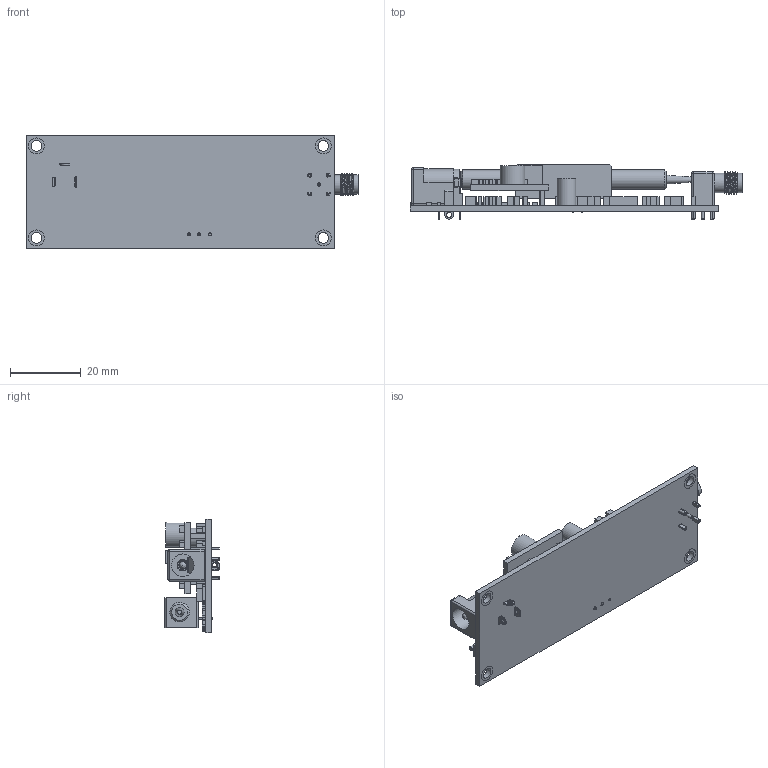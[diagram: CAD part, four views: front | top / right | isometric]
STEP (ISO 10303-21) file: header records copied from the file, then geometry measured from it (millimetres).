
FILE_DESCRIPTION (( 'STEP AP203' ), '1' );
FILE_NAME ('NS1X1 With driver board.STEP', '2025-05-13T13:51:09', ( 'cad' ), ( '' ), 'SwSTEP 2.0', 'SolidWorks 2017', '' );
FILE_SCHEMA (( 'CONFIG_CONTROL_DESIGN' ));
Length unit declared in the file: millimetre
Products named in the file (18): End cap; 6941xx301002_PinLame.step_1____1; PIN; 6941xx301002_PinBis.step_1____1; Assembly for NS 1X1; 694106301002.step_2____1; 100KHz PCB BOARD; NS1X1 With driver board; 100KHz PCB ASM; SMA_c-5-1814400-2-d-3d; Dual stage NVOA box; 6941xx301002.step_1____1; Dual stage NVOA cover; 694106301002_PinContact.step_1____1; 6941xx301002_Back.step_1____1; End cap_1; 6941xx301002_PinContact2.step_1____1
Assembly tree (19 placements, depth 4):
  NS1X1 With driver board
    100KHz PCB ASM
      100KHz PCB BOARD
      SMA_c-5-1814400-2-d-3d
      694106301002.step_2____1
        6941xx301002.step_1____1
        694106301002_PinContact.step_1____1
        6941xx301002_Back.step_1____1
        6941xx301002_PinContact2.step_1____1
        6941xx301002_PinLame.step_1____1
        6941xx301002_PinBis.step_1____1
    Assembly for NS 1X1
      Dual stage NVOA box
      Dual stage NVOA cover
      End cap  x2
        End cap
        End cap_1
      PIN  x2
Bounding box: 93.75 x 15.6 x 32.05 mm (x, y, z)
Volume: 9116.2 mm3; surface area: 14376.3 mm2
Topology: 16 solids, 16 shells, 1327 faces, 3400 edges, 2252 vertices
Faces by surface type: plane 947, bspline 202, cylinder 140, cone 19, torus 15, sphere 4
Full cylindrical faces by diameter (mm): 0.45 x2, 0.71 x1, 0.75 x3, 0.751 x2, 0.864 x3, 0.95 x1, 1.1 x5, 1.5 x3, 1.778 x2, 1.8 x1, 2 x11, 3 x4, 3.2 x4, 4.6 x2, 4.7 x1, 5.1 x4, 5.296 x1, 5.45 x2, 5.5 x2, 6.4 x1, 6.977 x1
Entity records: 52798 total; most frequent: CARTESIAN_POINT 20446, ORIENTED_EDGE 6548, DIRECTION 5336, EDGE_CURVE 3274, VECTOR 2522, LINE 2522, VERTEX_POINT 2216, EDGE_LOOP 1608
